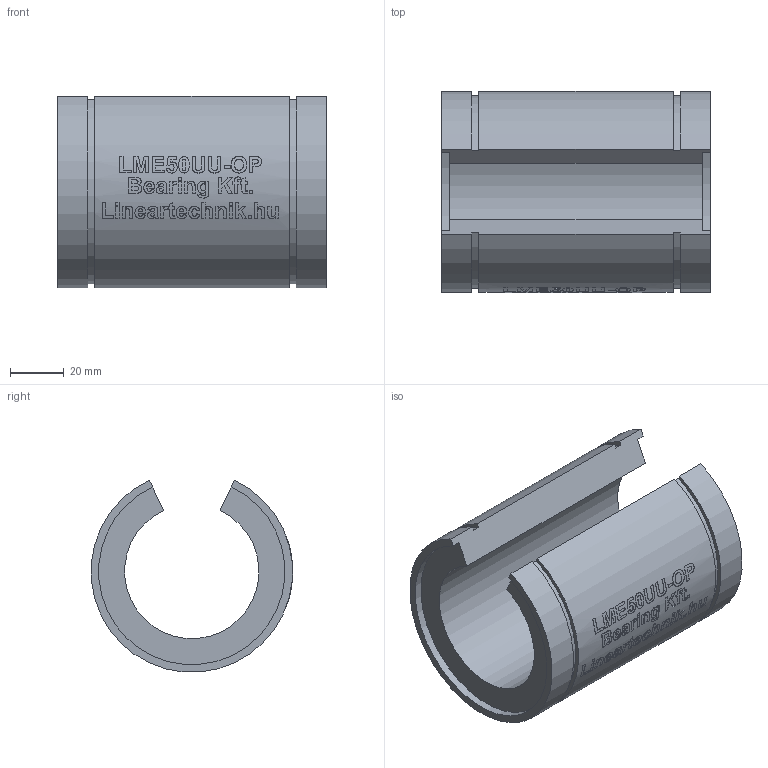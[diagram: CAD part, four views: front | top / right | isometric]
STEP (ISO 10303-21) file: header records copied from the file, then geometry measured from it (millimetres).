
FILE_DESCRIPTION(/* description */ (''),/* implementation_level */ '2;1');
FILE_NAME(/* name */ 'LME50UU-OP',/* time_stamp */ '2019-07-02T16:23:21+02:00',/* author */ ('VĂ©gh MĂˇtĂ©'),/* organization */ ('Bearing Kft'),/* preprocessor_version */ 'ST-DEVELOPER v16.7',/* originating_system */ 'DEX',/* authorisation */ $);
FILE_SCHEMA (('AUTOMOTIVE_DESIGN {1 0 10303 214 3 1 1}'));
Length unit declared in the file: millimetre
Products named in the file (1): LME50UU-OP
Bounding box: 100 x 74.86 x 71.37 mm (x, y, z)
Volume: 200525.9 mm3; surface area: 41993.8 mm2
Topology: 1 solids, 1 shells, 337 faces, 854 edges, 570 vertices
Faces by surface type: plane 180, bspline 98, cylinder 59
Entity records: 20960 total; most frequent: CARTESIAN_POINT 13317, ORIENTED_EDGE 1698, DIRECTION 1296, EDGE_CURVE 849, VERTEX_POINT 570, LINE 478, VECTOR 478, AXIS2_PLACEMENT_3D 409
